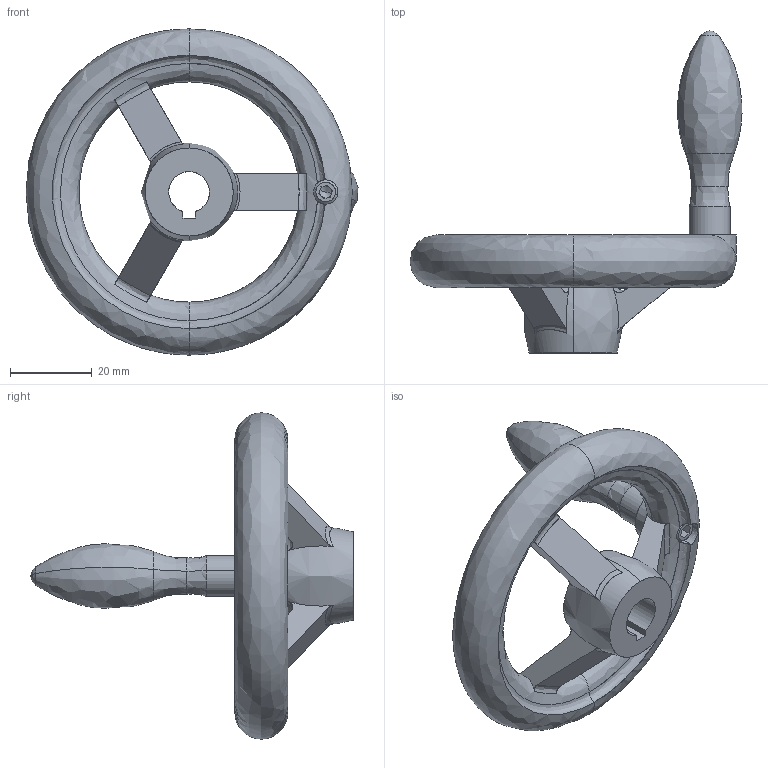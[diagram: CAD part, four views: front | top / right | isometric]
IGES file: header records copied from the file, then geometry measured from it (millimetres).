
Start section: SolidWorks IGES file using analytic representation for surfaces
Global section: file name: C:\Users\IanO\Desktop\Temp File\Process pending\77120_v2\77120_v2_20171108_IGES\77120.W0500.igs; native system: SolidWorks 2017; preprocessor: SolidWorks 2017; author: IanO; date: 171108.083818; units: millimetre
Bounding box: 81.42 x 79 x 80 mm (x, y, z)
Surface area: 14869.3 mm2 (no closed solid volume)
Topology: 0 solids, 0 shells, 125 faces, 1452 edges, 1443 vertices
Faces by surface type: bspline 68, revolution 57
